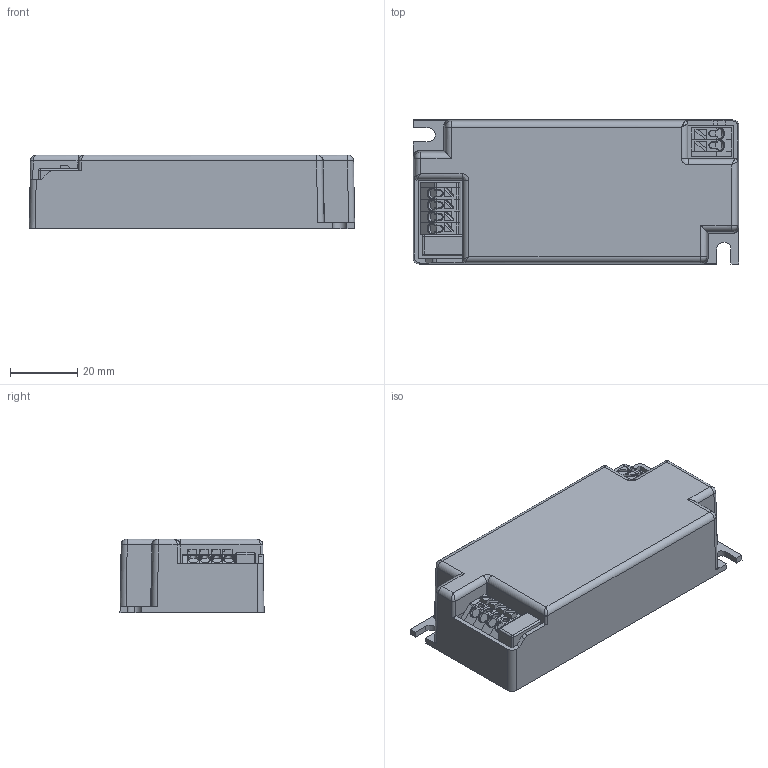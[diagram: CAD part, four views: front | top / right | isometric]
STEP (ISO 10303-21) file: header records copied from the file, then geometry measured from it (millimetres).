
FILE_DESCRIPTION (( 'STEP AP214' ), '1' );
FILE_NAME ('4346135swm000.step', '2021-09-22T08:58:09', ( 'Windows User' ), ( '' ), 'SwSTEP 2.0', 'SolidWorks 2020', '' );
FILE_SCHEMA (( 'AUTOMOTIVE_DESIGN' ));
Length unit declared in the file: millimetre
Products named in the file (1): 4346135swm000
Bounding box: 96.8 x 42.85 x 22 mm (x, y, z)
Volume: 83113.8 mm3; surface area: 15207.4 mm2
Topology: 1 solids, 1 shells, 339 faces, 900 edges, 561 vertices
Faces by surface type: plane 214, cylinder 81, bspline 18, cone 18, sphere 8
Entity records: 14395 total; most frequent: CARTESIAN_POINT 2459, ORIENTED_EDGE 1784, DIRECTION 1616, EDGE_CURVE 892, LINE 660, VECTOR 660, VERTEX_POINT 561, AXIS2_PLACEMENT_3D 478
